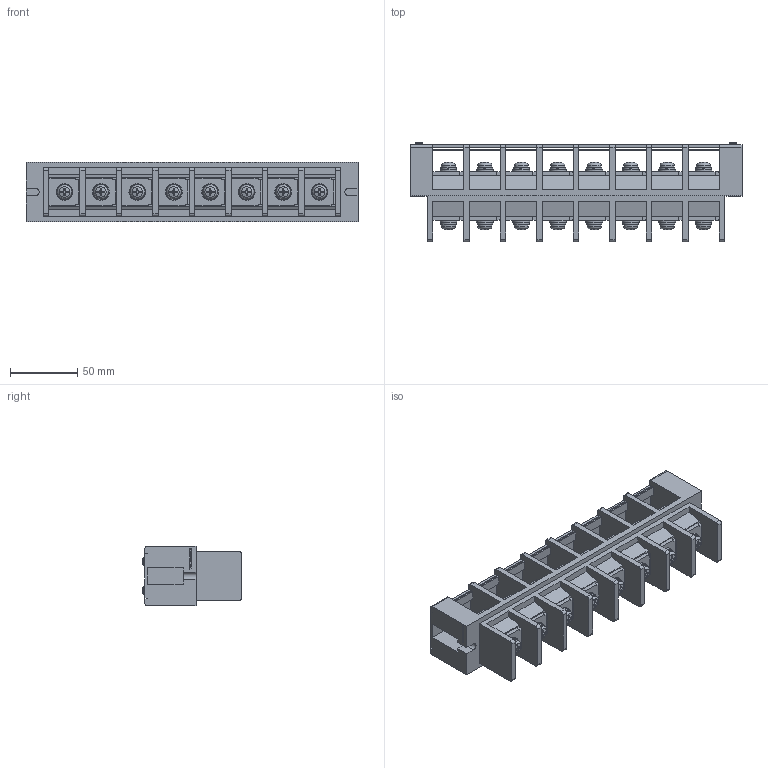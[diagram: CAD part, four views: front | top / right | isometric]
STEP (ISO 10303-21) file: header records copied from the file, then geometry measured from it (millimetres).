
FILE_DESCRIPTION(/* description */ ('Alibre Inc.'),/* implementation_level */ '2;1');
FILE_NAME(/* name */ 'export0',/* time_stamp */ '2016-04-05T18:21:35+09:00',/* author */ (''),/* organization */ (''),/* preprocessor_version */ 'ST-DEVELOPER v14',/* originating_system */ 'Alibre',/* authorisation */ '');
FILE_SCHEMA (('CONFIG_CONTROL_DESIGN'));
Length unit declared in the file: centimetre
Products named in the file (1): ID_1
Bounding box: 246 x 73.94 x 44 mm (x, y, z)
Volume: 273221.4 mm3; surface area: 131230.9 mm2
Topology: 10 solids, 12 shells, 1218 faces, 3391 edges, 2204 vertices
Faces by surface type: plane 850, cylinder 192, cone 88, bspline 52, torus 18, sphere 18
Full cylindrical faces by diameter (mm): 3 x4, 5.5 x2, 6 x16, 8 x16, 10.5 x16, 12.5 x16
Entity records: 36798 total; most frequent: CARTESIAN_POINT 7479, ORIENTED_EDGE 6522, DIRECTION 5002, EDGE_CURVE 3261, VERTEX_POINT 2178, VECTOR 2070, LINE 2070, AXIS2_PLACEMENT_3D 1887
